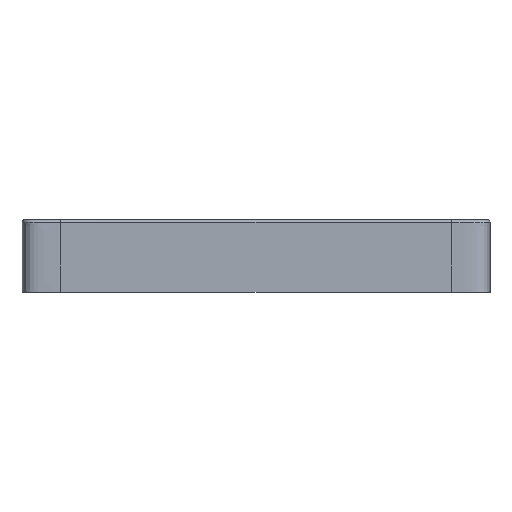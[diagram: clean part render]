
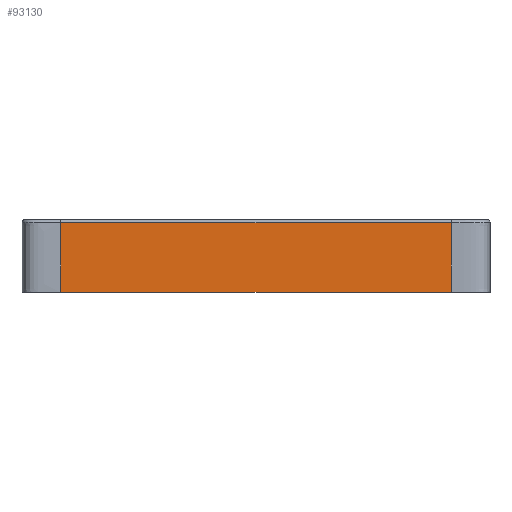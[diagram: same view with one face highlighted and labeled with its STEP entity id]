
A CAD part, front view. The second image highlights one B-rep face of the part: STEP entity #93130.
In plain terms, the highlighted planar face has unit normal (0, -1, 0).
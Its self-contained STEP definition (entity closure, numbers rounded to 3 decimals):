
#640 = SURFACE_OF_LINEAR_EXTRUSION('',#641,#669);
#641 = B_SPLINE_CURVE_WITH_KNOTS('',3,(#642,#643,#644,#645,#646,#647,
    #648,#649,#650,#651,#652,#653,#654,#655,#656,#657,#658,#659,#660,
    #661,#662,#663,#664,#665,#666,#667,#668),.UNSPECIFIED.,.F.,.F.,(4,1,
    1,1,1,1,1,1,1,1,1,1,1,1,1,1,1,1,1,1,1,1,1,1,4),(0.,2.687,
    3.543,4.162,4.663,5.089,
    5.464,5.801,6.11,6.399,
    6.672,6.935,7.194,7.452,
    7.715,7.989,8.277,8.586,
    8.923,9.298,9.725,10.225,
    10.844,11.7,14.387),.UNSPECIFIED.);
#642 = CARTESIAN_POINT('',(97.,8.,0.));
#643 = CARTESIAN_POINT('',(97.,7.092,0.));
#644 = CARTESIAN_POINT('',(97.007,5.925,0.));
#645 = CARTESIAN_POINT('',(96.98,4.536,0.));
#646 = CARTESIAN_POINT('',(96.945,3.878,0.));
#647 = CARTESIAN_POINT('',(96.897,3.365,0.));
#648 = CARTESIAN_POINT('',(96.834,2.935,0.));
#649 = CARTESIAN_POINT('',(96.758,2.563,0.));
#650 = CARTESIAN_POINT('',(96.666,2.235,0.));
#651 = CARTESIAN_POINT('',(96.559,1.942,0.));
#652 = CARTESIAN_POINT('',(96.437,1.679,0.));
#653 = CARTESIAN_POINT('',(96.298,1.441,0.));
#654 = CARTESIAN_POINT('',(96.142,1.226,0.));
#655 = CARTESIAN_POINT('',(95.968,1.032,0.));
#656 = CARTESIAN_POINT('',(95.774,0.858,0.));
#657 = CARTESIAN_POINT('',(95.559,0.702,0.));
#658 = CARTESIAN_POINT('',(95.321,0.563,0.));
#659 = CARTESIAN_POINT('',(95.058,0.441,0.));
#660 = CARTESIAN_POINT('',(94.765,0.334,0.));
#661 = CARTESIAN_POINT('',(94.437,0.242,0.));
#662 = CARTESIAN_POINT('',(94.065,0.166,0.));
#663 = CARTESIAN_POINT('',(93.635,0.103,0.));
#664 = CARTESIAN_POINT('',(93.121,0.055,0.));
#665 = CARTESIAN_POINT('',(92.466,0.02,0.));
#666 = CARTESIAN_POINT('',(91.056,-0.007,0.));
#667 = CARTESIAN_POINT('',(90.038,0.,0.));
#668 = CARTESIAN_POINT('',(89.,0.,0.));
#669 = VECTOR('',#670,1.);
#670 = DIRECTION('',(-0.,0.,-1.));
#694 = PLANE('',#695);
#695 = AXIS2_PLACEMENT_3D('',#696,#697,#698);
#696 = CARTESIAN_POINT('',(48.5,28.,0.));
#697 = DIRECTION('',(-0.,-0.,1.));
#698 = DIRECTION('',(-1.,0.,0.));
#3104 = CYLINDRICAL_SURFACE('',#3105,0.6);
#3105 = AXIS2_PLACEMENT_3D('',#3106,#3107,#3108);
#3106 = CARTESIAN_POINT('',(89.,0.6,14.4));
#3107 = DIRECTION('',(-1.,-0.,-0.));
#3108 = DIRECTION('',(-0.,-1.,-0.));
#92881 = VERTEX_POINT('',#92882);
#92882 = CARTESIAN_POINT('',(89.,0.,14.4));
#93075 = VERTEX_POINT('',#93076);
#93076 = CARTESIAN_POINT('',(8.,0.,14.4));
#93105 = EDGE_CURVE('',#92881,#93075,#93106,.T.);
#93106 = SURFACE_CURVE('',#93107,(#93111,#93118),.PCURVE_S1.);
#93107 = LINE('',#93108,#93109);
#93108 = CARTESIAN_POINT('',(89.,0.,14.4));
#93109 = VECTOR('',#93110,1.);
#93110 = DIRECTION('',(-1.,-0.,-0.));
#93111 = PCURVE('',#3104,#93112);
#93112 = DEFINITIONAL_REPRESENTATION('',(#93113),#93117);
#93113 = LINE('',#93114,#93115);
#93114 = CARTESIAN_POINT('',(0.,0.));
#93115 = VECTOR('',#93116,1.);
#93116 = DIRECTION('',(0.,1.));
#93117 = ( GEOMETRIC_REPRESENTATION_CONTEXT(2) 
PARAMETRIC_REPRESENTATION_CONTEXT() REPRESENTATION_CONTEXT('2D SPACE',''
  ) );
#93118 = PCURVE('',#93119,#93124);
#93119 = PLANE('',#93120);
#93120 = AXIS2_PLACEMENT_3D('',#93121,#93122,#93123);
#93121 = CARTESIAN_POINT('',(89.,0.,0.));
#93122 = DIRECTION('',(-0.,1.,-0.));
#93123 = DIRECTION('',(1.,0.,0.));
#93124 = DEFINITIONAL_REPRESENTATION('',(#93125),#93129);
#93125 = LINE('',#93126,#93127);
#93126 = CARTESIAN_POINT('',(-0.,-14.4));
#93127 = VECTOR('',#93128,1.);
#93128 = DIRECTION('',(-1.,0.));
#93129 = ( GEOMETRIC_REPRESENTATION_CONTEXT(2) 
PARAMETRIC_REPRESENTATION_CONTEXT() REPRESENTATION_CONTEXT('2D SPACE',''
  ) );
#93130 = ADVANCED_FACE('',(#93131),#93119,.F.);
#93131 = FACE_BOUND('',#93132,.T.);
#93132 = EDGE_LOOP('',(#93133,#93156,#93157,#93211));
#93133 = ORIENTED_EDGE('',*,*,#93134,.T.);
#93134 = EDGE_CURVE('',#93135,#92881,#93137,.T.);
#93135 = VERTEX_POINT('',#93136);
#93136 = CARTESIAN_POINT('',(89.,0.,0.));
#93137 = SURFACE_CURVE('',#93138,(#93142,#93149),.PCURVE_S1.);
#93138 = LINE('',#93139,#93140);
#93139 = CARTESIAN_POINT('',(89.,0.,0.));
#93140 = VECTOR('',#93141,1.);
#93141 = DIRECTION('',(-0.,-0.,1.));
#93142 = PCURVE('',#93119,#93143);
#93143 = DEFINITIONAL_REPRESENTATION('',(#93144),#93148);
#93144 = LINE('',#93145,#93146);
#93145 = CARTESIAN_POINT('',(0.,-0.));
#93146 = VECTOR('',#93147,1.);
#93147 = DIRECTION('',(-0.,-1.));
#93148 = ( GEOMETRIC_REPRESENTATION_CONTEXT(2) 
PARAMETRIC_REPRESENTATION_CONTEXT() REPRESENTATION_CONTEXT('2D SPACE',''
  ) );
#93149 = PCURVE('',#640,#93150);
#93150 = DEFINITIONAL_REPRESENTATION('',(#93151),#93155);
#93151 = LINE('',#93152,#93153);
#93152 = CARTESIAN_POINT('',(14.387,0.));
#93153 = VECTOR('',#93154,1.);
#93154 = DIRECTION('',(0.,-1.));
#93155 = ( GEOMETRIC_REPRESENTATION_CONTEXT(2) 
PARAMETRIC_REPRESENTATION_CONTEXT() REPRESENTATION_CONTEXT('2D SPACE',''
  ) );
#93156 = ORIENTED_EDGE('',*,*,#93105,.T.);
#93157 = ORIENTED_EDGE('',*,*,#93158,.F.);
#93158 = EDGE_CURVE('',#93159,#93075,#93161,.T.);
#93159 = VERTEX_POINT('',#93160);
#93160 = CARTESIAN_POINT('',(8.,0.,0.));
#93161 = SURFACE_CURVE('',#93162,(#93166,#93173),.PCURVE_S1.);
#93162 = LINE('',#93163,#93164);
#93163 = CARTESIAN_POINT('',(8.,0.,0.));
#93164 = VECTOR('',#93165,1.);
#93165 = DIRECTION('',(-0.,-0.,1.));
#93166 = PCURVE('',#93119,#93167);
#93167 = DEFINITIONAL_REPRESENTATION('',(#93168),#93172);
#93168 = LINE('',#93169,#93170);
#93169 = CARTESIAN_POINT('',(-81.,0.));
#93170 = VECTOR('',#93171,1.);
#93171 = DIRECTION('',(-0.,-1.));
#93172 = ( GEOMETRIC_REPRESENTATION_CONTEXT(2) 
PARAMETRIC_REPRESENTATION_CONTEXT() REPRESENTATION_CONTEXT('2D SPACE',''
  ) );
#93173 = PCURVE('',#93174,#93205);
#93174 = SURFACE_OF_LINEAR_EXTRUSION('',#93175,#93203);
#93175 = B_SPLINE_CURVE_WITH_KNOTS('',3,(#93176,#93177,#93178,#93179,
    #93180,#93181,#93182,#93183,#93184,#93185,#93186,#93187,#93188,
    #93189,#93190,#93191,#93192,#93193,#93194,#93195,#93196,#93197,
    #93198,#93199,#93200,#93201,#93202),.UNSPECIFIED.,.F.,.F.,(4,1,1,1,1
    ,1,1,1,1,1,1,1,1,1,1,1,1,1,1,1,1,1,1,1,4),(0.,2.687,
    3.543,4.162,4.663,5.089,
    5.464,5.801,6.111,6.399,
    6.672,6.935,7.194,7.452,
    7.715,7.989,8.277,8.586,
    8.923,9.298,9.725,10.225,
    10.844,11.7,14.387),.UNSPECIFIED.);
#93176 = CARTESIAN_POINT('',(8.,0.,0.));
#93177 = CARTESIAN_POINT('',(7.092,0.,0.));
#93178 = CARTESIAN_POINT('',(5.925,-0.007,0.));
#93179 = CARTESIAN_POINT('',(4.536,0.02,0.));
#93180 = CARTESIAN_POINT('',(3.878,0.055,0.));
#93181 = CARTESIAN_POINT('',(3.365,0.103,0.));
#93182 = CARTESIAN_POINT('',(2.935,0.166,0.));
#93183 = CARTESIAN_POINT('',(2.563,0.242,0.));
#93184 = CARTESIAN_POINT('',(2.235,0.334,0.));
#93185 = CARTESIAN_POINT('',(1.942,0.441,0.));
#93186 = CARTESIAN_POINT('',(1.679,0.563,0.));
#93187 = CARTESIAN_POINT('',(1.441,0.702,0.));
#93188 = CARTESIAN_POINT('',(1.226,0.858,0.));
#93189 = CARTESIAN_POINT('',(1.032,1.032,0.));
#93190 = CARTESIAN_POINT('',(0.858,1.226,0.));
#93191 = CARTESIAN_POINT('',(0.702,1.441,0.));
#93192 = CARTESIAN_POINT('',(0.563,1.679,0.));
#93193 = CARTESIAN_POINT('',(0.441,1.942,0.));
#93194 = CARTESIAN_POINT('',(0.334,2.235,0.));
#93195 = CARTESIAN_POINT('',(0.242,2.563,0.));
#93196 = CARTESIAN_POINT('',(0.166,2.935,0.));
#93197 = CARTESIAN_POINT('',(0.103,3.365,0.));
#93198 = CARTESIAN_POINT('',(0.055,3.879,0.));
#93199 = CARTESIAN_POINT('',(0.02,4.534,0.));
#93200 = CARTESIAN_POINT('',(-0.007,5.944,0.));
#93201 = CARTESIAN_POINT('',(0.,6.962,0.));
#93202 = CARTESIAN_POINT('',(0.,8.,0.));
#93203 = VECTOR('',#93204,1.);
#93204 = DIRECTION('',(-0.,0.,-1.));
#93205 = DEFINITIONAL_REPRESENTATION('',(#93206),#93210);
#93206 = LINE('',#93207,#93208);
#93207 = CARTESIAN_POINT('',(0.,0.));
#93208 = VECTOR('',#93209,1.);
#93209 = DIRECTION('',(0.,-1.));
#93210 = ( GEOMETRIC_REPRESENTATION_CONTEXT(2) 
PARAMETRIC_REPRESENTATION_CONTEXT() REPRESENTATION_CONTEXT('2D SPACE',''
  ) );
#93211 = ORIENTED_EDGE('',*,*,#93212,.F.);
#93212 = EDGE_CURVE('',#93135,#93159,#93213,.T.);
#93213 = SURFACE_CURVE('',#93214,(#93218,#93225),.PCURVE_S1.);
#93214 = LINE('',#93215,#93216);
#93215 = CARTESIAN_POINT('',(89.,0.,0.));
#93216 = VECTOR('',#93217,1.);
#93217 = DIRECTION('',(-1.,-0.,-0.));
#93218 = PCURVE('',#93119,#93219);
#93219 = DEFINITIONAL_REPRESENTATION('',(#93220),#93224);
#93220 = LINE('',#93221,#93222);
#93221 = CARTESIAN_POINT('',(0.,-0.));
#93222 = VECTOR('',#93223,1.);
#93223 = DIRECTION('',(-1.,0.));
#93224 = ( GEOMETRIC_REPRESENTATION_CONTEXT(2) 
PARAMETRIC_REPRESENTATION_CONTEXT() REPRESENTATION_CONTEXT('2D SPACE',''
  ) );
#93225 = PCURVE('',#694,#93226);
#93226 = DEFINITIONAL_REPRESENTATION('',(#93227),#93231);
#93227 = LINE('',#93228,#93229);
#93228 = CARTESIAN_POINT('',(-40.5,28.));
#93229 = VECTOR('',#93230,1.);
#93230 = DIRECTION('',(1.,-0.));
#93231 = ( GEOMETRIC_REPRESENTATION_CONTEXT(2) 
PARAMETRIC_REPRESENTATION_CONTEXT() REPRESENTATION_CONTEXT('2D SPACE',''
  ) );
